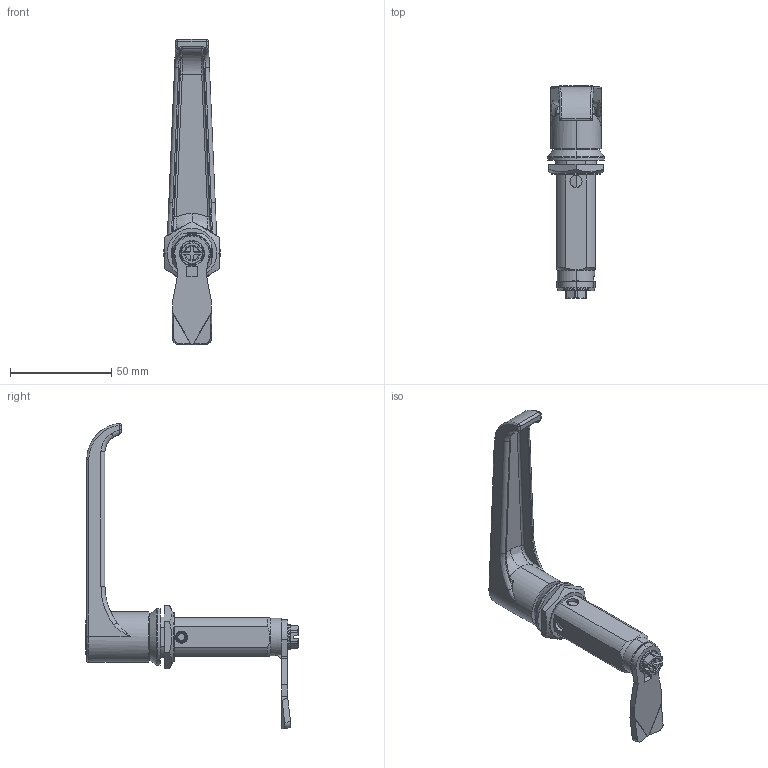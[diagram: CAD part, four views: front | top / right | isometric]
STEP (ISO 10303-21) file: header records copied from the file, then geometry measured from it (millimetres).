
FILE_DESCRIPTION (( 'STEP AP214' ), '1' );
FILE_NAME ('2.L60.001-002-003-004.STEP', '2016-09-08T10:46:11', ( '' ), ( '' ), 'SwSTEP 2.0', 'SolidWorks 2015', '' );
FILE_SCHEMA (( 'AUTOMOTIVE_DESIGN' ));
Length unit declared in the file: millimetre
Products named in the file (14): DIN 914_M2,5 x 4; 2.PM18.001.02; 2.L18.001.05; 2.L18.001.03; Wk³adka 1333_1333 IP; 2.L18.001.02_A; 2.L60.001-002-003-004; Podk³adka ³ukowa M22_A; 2.A001.008_A; DIN 6921_M6x50; 1C.J-1XX.GH.L_#3, 1.65.18.45; 2.NKR_M22 - A1; 2.K.PM60.001_A; DIN 3771_16,36x2.4
Assembly tree (13 placements, depth 2):
  2.L60.001-002-003-004
    2.L18.001.02_A
    Wk³adka 1333_1333 IP
    2.L18.001.03
    2.L18.001.05
    2.PM18.001.02
    DIN 914_M2,5 x 4
    DIN 3771_16,36x2.4
    2.K.PM60.001_A
    2.NKR_M22 - A1
    1C.J-1XX.GH.L_#3, 1.65.18.45
    DIN 6921_M6x50
    2.A001.008_A
    Podk³adka ³ukowa M22_A
Bounding box: 28 x 104.8 x 150.65 mm (x, y, z)
Volume: 47978.1 mm3; surface area: 32988.2 mm2
Topology: 13 solids, 13 shells, 599 faces, 1484 edges, 937 vertices
Faces by surface type: plane 285, cylinder 191, cone 60, bspline 39, torus 19, sphere 5
Entity records: 23062 total; most frequent: CARTESIAN_POINT 7381, ORIENTED_EDGE 2948, DIRECTION 2823, EDGE_CURVE 1474, AXIS2_PLACEMENT_3D 1071, VERTEX_POINT 936, VECTOR 681, LINE 681
